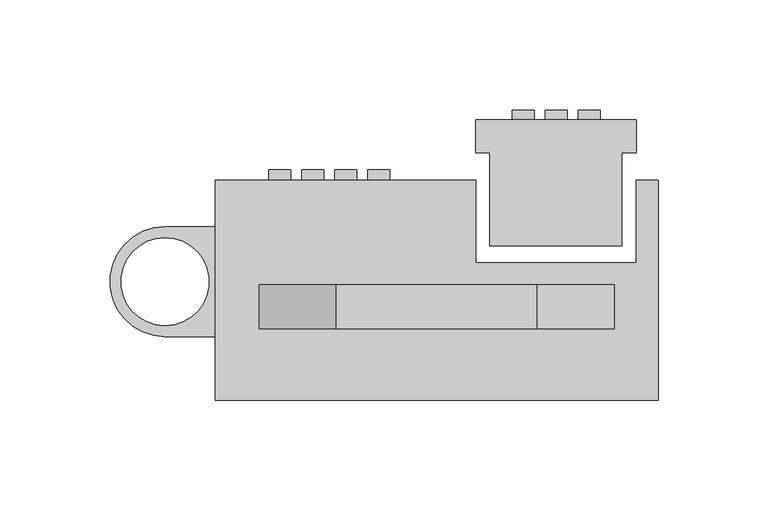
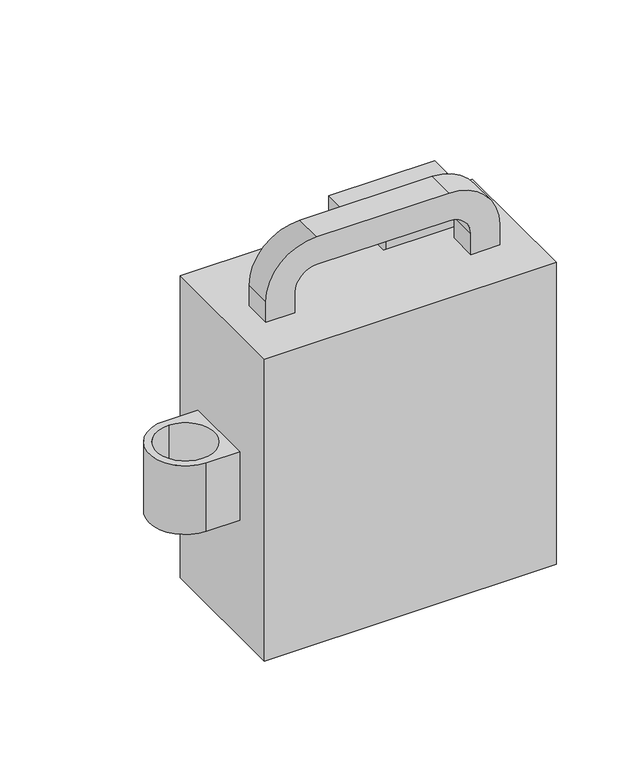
"""IFC4 building model written with IfcOpenShell, lengths in millimetres: proxy geometry, BIMHealth-IV_Pump-LOD2A-v1 : BIMHealth-IV_Pump-LOD2A-v1."""

from ifc_helpers import new_model, si_unit, point, frame, frame_2d, origin, place, context, project, spatial, polyline, circle_curve, trimmed, segment, composite_curve, outline, extrude, faceted_brep, source, transform, mapped, element, save
from ifc_brep_helpers import plane_surface, cylinder_surface, revolved_surface, advanced_brep


def generic_models_23b3e7a1(model_context):
    return source(origin(), model_context, "Body", "SolidModel", [
        extrude(outline(composite_curve([segment(polyline([(0.0, 29.0253718), (-22.9173929, 29.0253718)]), True, "CONTINUOUS"), segment(trimmed(circle_curve(frame_2d((-22.9173929, 54.0253718)), 25.0), [point((-22.9173929, 29.0253718))], [point((-22.9173929, 79.0253718))], False, "CARTESIAN"), True, "CONTINUOUS"), segment(polyline([(-22.9173929, 79.0253718), (0.0, 79.0253718), (0.0, 29.0253718)]), True, "CONTINUOUS")], self_intersect=False), holes=[composite_curve([segment(trimmed(circle_curve(frame_2d((-22.9173929, 54.0253718)), 20.0), [point((-22.9173929, 74.0253718))], [point((-22.9173929, 34.0253718))], True, "CARTESIAN"), True, "CONTINUOUS"), segment(trimmed(circle_curve(frame_2d((-22.9173929, 54.0253718)), 20.0), [point((-22.9173929, 34.0253718))], [point((-22.9173929, 74.0253718))], True, "CARTESIAN"), True, "CONTINUOUS")], self_intersect=False)]), frame((0.0, 0.0, 1285.0), z_axis=(0.0, 0.0, 1.0), x_axis=(1.0, 0.0, 0.0)), (0.0, 0.0, 1.0), 50.0),
        extrude(outline(polyline([(144.8677918, 132.0286208), (144.8677918, 127.675785), (134.8677918, 127.675785), (134.8677918, 132.0286208), (144.8677918, 132.0286208)])), frame((0.0, 0.0, 1305.0), z_axis=(0.0, 0.0, 1.0), x_axis=(1.0, 0.0, 0.0)), (0.0, 0.0, 1.0), 10.0),
        extrude(outline(polyline([(159.8677918, 132.0286208), (159.8677918, 127.675785), (149.8677918, 127.675785), (149.8677918, 132.0286208), (159.8677918, 132.0286208)])), frame((0.0, 0.0, 1305.0), z_axis=(0.0, 0.0, 1.0), x_axis=(1.0, 0.0, 0.0)), (0.0, 0.0, 1.0), 10.0),
        extrude(outline(polyline([(174.8677918, 132.0286208), (174.8677918, 127.675785), (164.8677918, 127.675785), (164.8677918, 132.0286208), (174.8677918, 132.0286208)])), frame((0.0, 0.0, 1305.0), z_axis=(0.0, 0.0, 1.0), x_axis=(1.0, 0.0, 0.0)), (0.0, 0.0, 1.0), 10.0),
        extrude(outline(polyline([(144.8677918, 132.0286208), (144.8677918, 127.675785), (134.8677918, 127.675785), (134.8677918, 132.0286208), (144.8677918, 132.0286208)])), frame((0.0, 0.0, 1290.0), z_axis=(0.0, 0.0, 1.0), x_axis=(1.0, 0.0, 0.0)), (0.0, 0.0, 1.0), 10.0),
        extrude(outline(polyline([(159.8677918, 132.0286208), (159.8677918, 127.675785), (149.8677918, 127.675785), (149.8677918, 132.0286208), (159.8677918, 132.0286208)])), frame((0.0, 0.0, 1290.0), z_axis=(0.0, 0.0, 1.0), x_axis=(1.0, 0.0, 0.0)), (0.0, 0.0, 1.0), 10.0),
        extrude(outline(polyline([(174.8677918, 132.0286208), (174.8677918, 127.675785), (164.8677918, 127.675785), (164.8677918, 132.0286208), (174.8677918, 132.0286208)])), frame((0.0, 0.0, 1290.0), z_axis=(0.0, 0.0, 1.0), x_axis=(1.0, 0.0, 0.0)), (0.0, 0.0, 1.0), 10.0),
        extrude(outline(polyline([(144.8677918, 132.0286208), (144.8677918, 127.675785), (134.8677918, 127.675785), (134.8677918, 132.0286208), (144.8677918, 132.0286208)])), frame((0.0, 0.0, 1320.0), z_axis=(0.0, 0.0, 1.0), x_axis=(1.0, 0.0, 0.0)), (0.0, 0.0, 1.0), 10.0),
        extrude(outline(polyline([(159.8677918, 132.0286208), (159.8677918, 127.675785), (149.8677918, 127.675785), (149.8677918, 132.0286208), (159.8677918, 132.0286208)])), frame((0.0, 0.0, 1320.0), z_axis=(0.0, 0.0, 1.0), x_axis=(1.0, 0.0, 0.0)), (0.0, 0.0, 1.0), 10.0),
        extrude(outline(polyline([(174.8677918, 132.0286208), (174.8677918, 127.675785), (164.8677918, 127.675785), (164.8677918, 132.0286208), (174.8677918, 132.0286208)])), frame((0.0, 0.0, 1320.0), z_axis=(0.0, 0.0, 1.0), x_axis=(1.0, 0.0, 0.0)), (0.0, 0.0, 1.0), 10.0),
        advanced_brep(
        [(0.0, 100.0, 1420.0), (0.0, 0.0, 1420.0), (201.2112561, 0.0, 1420.0), (201.2112561, 100.0, 1420.0), (191.2112561, 100.0, 1420.0), (191.2112561, 62.5, 1420.0), (118.3612561, 62.5, 1420.0), (118.3612561, 100.0, 1420.0), (40.0, 52.5, 1420.0), (40.0, 32.5, 1420.0), (20.0, 32.5, 1420.0), (20.0, 52.5, 1420.0), (181.2112561, 52.5, 1420.0), (181.2112561, 32.5, 1420.0), (161.2112561, 32.5, 1420.0), (161.2112561, 52.5, 1420.0), (0.0, 100.0, 1200.0), (118.3612561, 100.0, 1200.0), (118.3612561, 62.5, 1200.0), (191.2112561, 62.5, 1200.0), (191.2112561, 100.0, 1200.0), (201.2112561, 100.0, 1200.0), (201.2112561, 0.0, 1200.0), (0.0, 0.0, 1200.0), (79.1833907, 100.0, 1395.0), (24.1833907, 100.0, 1395.0), (24.1833907, 100.0, 1295.0), (79.1833907, 100.0, 1295.0), (79.1833907, 96.6063312, 1295.0), (24.1833907, 96.6063312, 1295.0), (24.1833907, 96.6063312, 1395.0), (79.1833907, 96.6063312, 1395.0), (20.0, 52.5, 1435.0), (55.0, 52.5, 1470.0), (146.2112561, 52.5, 1470.0), (181.2112561, 52.5, 1435.0), (161.2112561, 52.5, 1435.0), (146.2112561, 52.5, 1450.0), (55.0, 52.5, 1450.0), (40.0, 52.5, 1435.0), (40.0, 32.5, 1435.0), (55.0, 32.5, 1450.0), (146.2112561, 32.5, 1450.0), (161.2112561, 32.5, 1435.0), (181.2112561, 32.5, 1435.0), (146.2112561, 32.5, 1470.0), (55.0, 32.5, 1470.0), (20.0, 32.5, 1435.0)],
        [
            (0, 1),
            (1, 2),
            (2, 3),
            (3, 4),
            (4, 5),
            (5, 6),
            (6, 7),
            (7, 0),
            (8, 9),
            (9, 10),
            (10, 11),
            (11, 8),
            (12, 13),
            (13, 14),
            (14, 15),
            (15, 12),
            (16, 17),
            (17, 18),
            (18, 19),
            (19, 20),
            (20, 21),
            (21, 22),
            (22, 23),
            (23, 16),
            (7, 17),
            (16, 0),
            (24, 25),
            (25, 26),
            (26, 27),
            (27, 24),
            (2, 22),
            (21, 3),
            (1, 23),
            (28, 29),
            (29, 30),
            (30, 31),
            (31, 28),
            (31, 24),
            (27, 28),
            (30, 25),
            (29, 26),
            (6, 18),
            (5, 19),
            (4, 20),
            (11, 32),
            (32, 33, circle_curve(frame((55.0, 52.5, 1435.0), z_axis=(0.0, 1.0, 0.0), x_axis=(1.0, 0.0, 0.0)), 35.0)),
            (33, 34),
            (34, 35, circle_curve(frame((146.2112561, 52.5, 1435.0), z_axis=(0.0, 1.0, 0.0), x_axis=(-1.0, 0.0, 0.0)), 35.0)),
            (35, 12),
            (15, 36),
            (36, 37, circle_curve(frame((146.2112561, 52.5, 1435.0), z_axis=(0.0, -1.0, 0.0), x_axis=(-1.0, 0.0, 0.0)), 15.0)),
            (37, 38),
            (38, 39, circle_curve(frame((55.0, 52.5, 1435.0), z_axis=(0.0, -1.0, 0.0), x_axis=(1.0, 0.0, 0.0)), 15.0)),
            (39, 8),
            (9, 40),
            (40, 41, circle_curve(frame((55.0, 32.5, 1435.0), z_axis=(0.0, 1.0, 0.0), x_axis=(1.0, 0.0, 0.0)), 15.0)),
            (41, 42),
            (42, 43, circle_curve(frame((146.2112561, 32.5, 1435.0), z_axis=(0.0, 1.0, 0.0), x_axis=(-1.0, 0.0, 0.0)), 15.0)),
            (43, 14),
            (13, 44),
            (44, 45, circle_curve(frame((146.2112561, 32.5, 1435.0), z_axis=(0.0, -1.0, 0.0), x_axis=(-1.0, 0.0, 0.0)), 35.0)),
            (45, 46),
            (46, 47, circle_curve(frame((55.0, 32.5, 1435.0), z_axis=(0.0, -1.0, 0.0), x_axis=(1.0, 0.0, 0.0)), 35.0)),
            (47, 10),
            (39, 40),
            (38, 41),
            (37, 42),
            (36, 43),
            (35, 44),
            (34, 45),
            (33, 46),
            (32, 47),
        ],
        [
            plane_surface(frame((201.2112561, 100.0, 1420.0), z_axis=(0.0, 0.0, 1.0), x_axis=(1.0, 0.0, 0.0))),
            plane_surface(frame((201.2112561, 100.0, 1200.0), z_axis=(0.0, 0.0, -1.0), x_axis=(-1.0, 0.0, 0.0))),
            plane_surface(frame((0.0, 100.0, 1420.0), z_axis=(0.0, 1.0, 0.0), x_axis=(0.0, 0.0, -1.0))),
            plane_surface(frame((201.2112561, 100.0, 1420.0), z_axis=(1.0, 0.0, 0.0), x_axis=(0.0, 0.0, -1.0))),
            plane_surface(frame((201.2112561, 0.0, 1420.0), z_axis=(0.0, -1.0, 0.0), x_axis=(0.0, 0.0, -1.0))),
            plane_surface(frame((0.0, 0.0, 1420.0), z_axis=(-1.0, 0.0, 0.0), x_axis=(0.0, 0.0, -1.0))),
            plane_surface(frame((79.1833907, 96.6063312, 1263.5321849), z_axis=(0.0, 1.0, 0.0), x_axis=(0.0, 0.0, -1.0))),
            plane_surface(frame((79.1833907, 104.6665421, 1295.0), z_axis=(-1.0, 0.0, 0.0), x_axis=(0.0, -1.0, 0.0))),
            plane_surface(frame((79.1833907, 104.6665421, 1395.0), z_axis=(0.0, 0.0, -1.0), x_axis=(0.0, -1.0, 0.0))),
            plane_surface(frame((24.1833907, 104.6665421, 1395.0), z_axis=(1.0, 0.0, 0.0), x_axis=(0.0, -1.0, 0.0))),
            plane_surface(frame((24.1833907, 104.6665421, 1295.0), z_axis=(0.0, 0.0, 1.0), x_axis=(0.0, -1.0, 0.0))),
            plane_surface(frame((118.3612561, 100.0, 1420.0), z_axis=(1.0, 0.0, 0.0), x_axis=(0.0, 0.0, -1.0))),
            plane_surface(frame((118.3612561, 62.5, 1420.0), z_axis=(0.0, 1.0, 0.0), x_axis=(0.0, 0.0, -1.0))),
            plane_surface(frame((191.2112561, 62.5, 1420.0), z_axis=(-1.0, 0.0, 0.0), x_axis=(0.0, 0.0, -1.0))),
            plane_surface(frame((191.2112561, 100.0, 1420.0), z_axis=(0.0, 1.0, 0.0), x_axis=(0.0, 0.0, -1.0))),
            plane_surface(frame((20.0, 52.5, 1420.0), z_axis=(0.0, 1.0, 0.0), x_axis=(1.0, 0.0, 0.0))),
            plane_surface(frame((20.0, 32.5, 1420.0), z_axis=(0.0, -1.0, 0.0), x_axis=(-1.0, 0.0, 0.0))),
            plane_surface(frame((40.0, 52.5, 1420.0), z_axis=(1.0, 0.0, 0.0), x_axis=(0.0, -1.0, 0.0))),
            revolved_surface(polyline([(70.0, 32.5, 1435.0), (70.0, 52.5, 1435.0)]), (55.0, 32.5, 1435.0), (0.0, -1.0, 0.0)),
            plane_surface(frame((55.0, 52.5, 1450.0), z_axis=(0.0, 0.0, -1.0), x_axis=(0.0, -1.0, 0.0))),
            revolved_surface(polyline([(131.2112561, 32.5, 1435.0), (131.2112561, 52.5, 1435.0)]), (146.2112561, 32.5, 1435.0), (0.0, -1.0, 0.0)),
            plane_surface(frame((161.2112561, 52.5, 1435.0), z_axis=(-1.0, 0.0, 0.0), x_axis=(0.0, -1.0, 0.0))),
            plane_surface(frame((181.2112561, 52.5, 1420.0), z_axis=(1.0, 0.0, 0.0), x_axis=(0.0, -1.0, 0.0))),
            cylinder_surface(frame((146.2112561, 32.5, 1435.0), z_axis=(0.0, 1.0, 0.0), x_axis=(-1.0, 0.0, 0.0)), 35.0),
            plane_surface(frame((146.2112561, 52.5, 1470.0), z_axis=(0.0, 0.0, 1.0), x_axis=(0.0, -1.0, 0.0))),
            cylinder_surface(frame((55.0, 32.5, 1435.0), z_axis=(0.0, 1.0, 0.0), x_axis=(1.0, 0.0, 0.0)), 35.0),
            plane_surface(frame((20.0, 52.5, 1435.0), z_axis=(-1.0, 0.0, 0.0), x_axis=(0.0, -1.0, 0.0))),
        ],
        [
            (0, [[1, 2, 3, 4, 5, 6, 7, 8], [9, 10, 11, 12], [13, 14, 15, 16]]),
            (1, [[17, 18, 19, 20, 21, 22, 23, 24]]),
            (2, [[25, -17, 26, -8], [27, 28, 29, 30]]),
            (3, [[31, -22, 32, -3]]),
            (4, [[33, -23, -31, -2]]),
            (5, [[-26, -24, -33, -1]]),
            (6, [[34, 35, 36, 37]]),
            (7, [[38, -30, 39, -37]]),
            (8, [[40, -27, -38, -36]]),
            (9, [[41, -28, -40, -35]]),
            (10, [[-39, -29, -41, -34]]),
            (11, [[42, -18, -25, -7]]),
            (12, [[43, -19, -42, -6]]),
            (13, [[44, -20, -43, -5]]),
            (14, [[-32, -21, -44, -4]]),
            (15, [[-12, 45, 46, 47, 48, 49, -16, 50, 51, 52, 53, 54]]),
            (16, [[-10, 55, 56, 57, 58, 59, -14, 60, 61, 62, 63, 64]]),
            (17, [[65, -55, -9, -54]]),
            (18, [[66, -56, -65, -53]]),
            (19, [[67, -57, -66, -52]]),
            (20, [[68, -58, -67, -51]]),
            (21, [[-15, -59, -68, -50]]),
            (22, [[69, -60, -13, -49]]),
            (23, [[70, -61, -69, -48]]),
            (24, [[71, -62, -70, -47]]),
            (25, [[72, -63, -71, -46]]),
            (26, [[-11, -64, -72, -45]]),
        ],
    ),
        faceted_brep([(184.6456597, 70.2680014, 1420.0), (184.6456597, 112.675785, 1420.0), (191.2112561, 112.675785, 1420.0), (191.2112561, 127.675785, 1420.0), (118.3612561, 127.675785, 1420.0), (118.3612561, 112.675785, 1420.0), (124.6456597, 112.675785, 1420.0), (124.6456597, 70.2680014, 1420.0), (184.6456597, 70.2680014, 1200.0), (124.6456597, 70.2680014, 1200.0), (124.6456597, 112.675785, 1200.0), (118.3612561, 112.675785, 1200.0), (118.3612561, 127.675785, 1200.0), (191.2112561, 127.675785, 1200.0), (191.2112561, 112.675785, 1200.0), (184.6456597, 112.675785, 1200.0), (129.8083907, 127.675785, 1395.0), (129.8083907, 127.675785, 1350.0), (179.8083907, 127.675785, 1350.0), (179.8083907, 127.675785, 1395.0), (179.8083907, 123.1340908, 1395.0), (179.8083907, 123.1340908, 1350.0), (129.8083907, 123.1340908, 1350.0), (129.8083907, 123.1340908, 1395.0)], [[[0, 1, 2, 3, 4, 5, 6, 7]], [[8, 9, 10, 11, 12, 13, 14, 15]], [[7, 9, 8, 0]], [[6, 10, 9, 7]], [[5, 11, 10, 6]], [[4, 12, 11, 5]], [[3, 13, 12, 4], [16, 17, 18, 19]], [[2, 14, 13, 3]], [[1, 15, 14, 2]], [[0, 8, 15, 1]], [[20, 21, 22, 23]], [[23, 16, 19, 20]], [[22, 17, 16, 23]], [[21, 18, 17, 22]], [[20, 19, 18, 21]]]),
        extrude(outline(polyline([(34.1833907, 104.831997), (34.1833907, 100.0), (24.1833907, 100.0), (24.1833907, 104.831997), (34.1833907, 104.831997)])), frame((0.0, 0.0, 1253.5321849), z_axis=(0.0, 0.0, 1.0), x_axis=(1.0, 0.0, 0.0)), (0.0, 0.0, 1.0), 10.0),
        extrude(outline(polyline([(49.1833907, 104.831997), (49.1833907, 100.0), (39.1833907, 100.0), (39.1833907, 104.831997), (49.1833907, 104.831997)])), frame((0.0, 0.0, 1253.5321849), z_axis=(0.0, 0.0, 1.0), x_axis=(1.0, 0.0, 0.0)), (0.0, 0.0, 1.0), 10.0),
        extrude(outline(polyline([(64.1833907, 104.831997), (64.1833907, 100.0), (54.1833907, 100.0), (54.1833907, 104.831997), (64.1833907, 104.831997)])), frame((0.0, 0.0, 1253.5321849), z_axis=(0.0, 0.0, 1.0), x_axis=(1.0, 0.0, 0.0)), (0.0, 0.0, 1.0), 10.0),
        extrude(outline(polyline([(79.1833907, 104.831997), (79.1833907, 100.0), (69.1833907, 100.0), (69.1833907, 104.831997), (79.1833907, 104.831997)])), frame((0.0, 0.0, 1253.5321849), z_axis=(0.0, 0.0, 1.0), x_axis=(1.0, 0.0, 0.0)), (0.0, 0.0, 1.0), 10.0),
        extrude(outline(polyline([(34.1833907, 104.831997), (34.1833907, 100.0), (24.1833907, 100.0), (24.1833907, 104.831997), (34.1833907, 104.831997)])), frame((0.0, 0.0, 1237.0754502), z_axis=(0.0, 0.0, 1.0), x_axis=(1.0, 0.0, 0.0)), (0.0, 0.0, 1.0), 11.4567347),
        extrude(outline(polyline([(49.1833907, 104.831997), (49.1833907, 100.0), (39.1833907, 100.0), (39.1833907, 104.831997), (49.1833907, 104.831997)])), frame((0.0, 0.0, 1238.5321849), z_axis=(0.0, 0.0, 1.0), x_axis=(1.0, 0.0, 0.0)), (0.0, 0.0, 1.0), 10.0),
        extrude(outline(polyline([(64.1833907, 104.831997), (64.1833907, 100.0), (54.1833907, 100.0), (54.1833907, 104.831997), (64.1833907, 104.831997)])), frame((0.0, 0.0, 1238.5321849), z_axis=(0.0, 0.0, 1.0), x_axis=(1.0, 0.0, 0.0)), (0.0, 0.0, 1.0), 10.0),
        extrude(outline(polyline([(79.1833907, 104.831997), (79.1833907, 100.0), (69.1833907, 100.0), (69.1833907, 104.831997), (79.1833907, 104.831997)])), frame((0.0, 0.0, 1238.5321849), z_axis=(0.0, 0.0, 1.0), x_axis=(1.0, 0.0, 0.0)), (0.0, 0.0, 1.0), 10.0),
        extrude(outline(polyline([(34.1833907, 104.831997), (34.1833907, 100.0), (24.1833907, 100.0), (24.1833907, 104.831997), (34.1833907, 104.831997)])), frame((0.0, 0.0, 1223.5321849), z_axis=(0.0, 0.0, 1.0), x_axis=(1.0, 0.0, 0.0)), (0.0, 0.0, 1.0), 10.0),
        extrude(outline(polyline([(49.1833907, 104.831997), (49.1833907, 100.0), (39.1833907, 100.0), (39.1833907, 104.831997), (49.1833907, 104.831997)])), frame((0.0, 0.0, 1223.5321849), z_axis=(0.0, 0.0, 1.0), x_axis=(1.0, 0.0, 0.0)), (0.0, 0.0, 1.0), 10.0),
        extrude(outline(polyline([(64.1833907, 104.831997), (64.1833907, 100.0), (54.1833907, 100.0), (54.1833907, 104.831997), (64.1833907, 104.831997)])), frame((0.0, 0.0, 1223.5321849), z_axis=(0.0, 0.0, 1.0), x_axis=(1.0, 0.0, 0.0)), (0.0, 0.0, 1.0), 10.0),
        extrude(outline(polyline([(79.1833907, 104.831997), (79.1833907, 100.0), (69.1833907, 100.0), (69.1833907, 104.831997), (79.1833907, 104.831997)])), frame((0.0, 0.0, 1223.5321849), z_axis=(0.0, 0.0, 1.0), x_axis=(1.0, 0.0, 0.0)), (0.0, 0.0, 1.0), 10.0),
        extrude(outline(polyline([(34.1833907, 104.831997), (34.1833907, 100.0), (24.1833907, 100.0), (24.1833907, 104.831997), (34.1833907, 104.831997)])), frame((0.0, 0.0, 1208.5321849), z_axis=(0.0, 0.0, 1.0), x_axis=(1.0, 0.0, 0.0)), (0.0, 0.0, 1.0), 10.0),
        extrude(outline(polyline([(49.1833907, 104.831997), (49.1833907, 100.0), (39.1833907, 100.0), (39.1833907, 104.831997), (49.1833907, 104.831997)])), frame((0.0, 0.0, 1208.5321849), z_axis=(0.0, 0.0, 1.0), x_axis=(1.0, 0.0, 0.0)), (0.0, 0.0, 1.0), 10.0),
        extrude(outline(polyline([(64.1833907, 104.831997), (64.1833907, 100.0), (54.1833907, 100.0), (54.1833907, 104.831997), (64.1833907, 104.831997)])), frame((0.0, 0.0, 1208.5321849), z_axis=(0.0, 0.0, 1.0), x_axis=(1.0, 0.0, 0.0)), (0.0, 0.0, 1.0), 10.0),
        extrude(outline(polyline([(79.1833907, 104.831997), (79.1833907, 100.0), (69.1833907, 100.0), (69.1833907, 104.831997), (79.1833907, 104.831997)])), frame((0.0, 0.0, 1208.5321849), z_axis=(0.0, 0.0, 1.0), x_axis=(1.0, 0.0, 0.0)), (0.0, 0.0, 1.0), 10.0),
        extrude(outline(polyline([(34.1833907, 104.831997), (34.1833907, 100.0), (24.1833907, 100.0), (24.1833907, 104.831997), (34.1833907, 104.831997)])), frame((0.0, 0.0, 1268.5321849), z_axis=(0.0, 0.0, 1.0), x_axis=(1.0, 0.0, 0.0)), (0.0, 0.0, 1.0), 10.0),
        extrude(outline(polyline([(49.1833907, 104.831997), (49.1833907, 100.0), (39.1833907, 100.0), (39.1833907, 104.831997), (49.1833907, 104.831997)])), frame((0.0, 0.0, 1268.5321849), z_axis=(0.0, 0.0, 1.0), x_axis=(1.0, 0.0, 0.0)), (0.0, 0.0, 1.0), 10.0),
        extrude(outline(polyline([(64.1833907, 104.831997), (64.1833907, 100.0), (54.1833907, 100.0), (54.1833907, 104.831997), (64.1833907, 104.831997)])), frame((0.0, 0.0, 1268.5321849), z_axis=(0.0, 0.0, 1.0), x_axis=(1.0, 0.0, 0.0)), (0.0, 0.0, 1.0), 10.0),
        extrude(outline(polyline([(79.1833907, 104.831997), (79.1833907, 100.0), (69.1833907, 100.0), (69.1833907, 104.831997), (79.1833907, 104.831997)])), frame((0.0, 0.0, 1268.5321849), z_axis=(0.0, 0.0, 1.0), x_axis=(1.0, 0.0, 0.0)), (0.0, 0.0, 1.0), 10.0),
    ])


if __name__ == "__main__":
    model = new_model("IFC4")
    model_context = context("Model", 3, world=origin())
    ifc_project = project(units=[si_unit("LENGTHUNIT", "METRE", prefix="MILLI")], contexts=[model_context])
    site = spatial("IfcSite", under=ifc_project)
    building = spatial("IfcBuilding", under=site)
    placement = place(None, origin())
    generic_models_shape = generic_models_23b3e7a1(model_context)
    element("IfcBuildingElementProxy", 1, Name="BIMHealth-IV_Pump-LOD2A-v1 : BIMHealth-IV_Pump-LOD2A-v1", ObjectType="BIMHealth-IV_Pump-LOD2A-v1 : BIMHealth-IV_Pump-LOD2A-v1", at=placement, inside=building, context=model_context, shape_type="MappedRepresentation", body=[
        mapped(generic_models_shape, transform((0.0, 0.0, 0.0), x_axis=(1.0, 0.0, 0.0), y_axis=(0.0, 1.0, 0.0), z_axis=(0.0, 0.0, 1.0))),
    ])
    save(model, "model.ifc")
